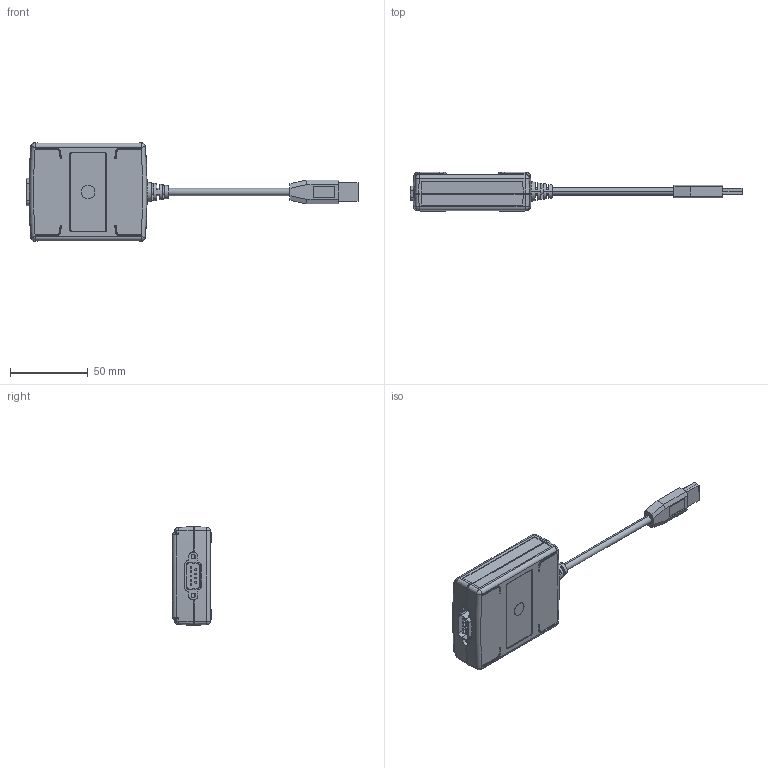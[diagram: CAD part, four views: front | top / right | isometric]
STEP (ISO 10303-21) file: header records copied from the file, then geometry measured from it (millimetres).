
FILE_DESCRIPTION((''),'2;1');
FILE_NAME('CU_ASSY_USB-CAN','2009-09-16T',('jpfaff'),(''),'PRO/ENGINEER BY PARAMETRIC TECHNOLOGY CORPORATION, 2006080','PRO/ENGINEER BY PARAMETRIC TECHNOLOGY CORPORATION, 2006080','');
FILE_SCHEMA(('CONFIG_CONTROL_DESIGN'));
Length unit declared in the file: inch
Products named in the file (1): CU_ASSY_USB-CAN
Bounding box: 214.15 x 25.3 x 63.5 mm (x, y, z)
Volume: 39282.4 mm3; surface area: 37019.5 mm2
Topology: 2 solids, 2 shells, 1794 faces, 3990 edges, 2376 vertices
Faces by surface type: torus 604, plane 483, cone 334, cylinder 205, bspline 136, sphere 32
Entity records: 55834 total; most frequent: CARTESIAN_POINT 15666, DIRECTION 9157, ORIENTED_EDGE 7980, EDGE_CURVE 3990, AXIS2_PLACEMENT_3D 3968, VERTEX_POINT 2376, CIRCLE 2310, EDGE_LOOP 1992
